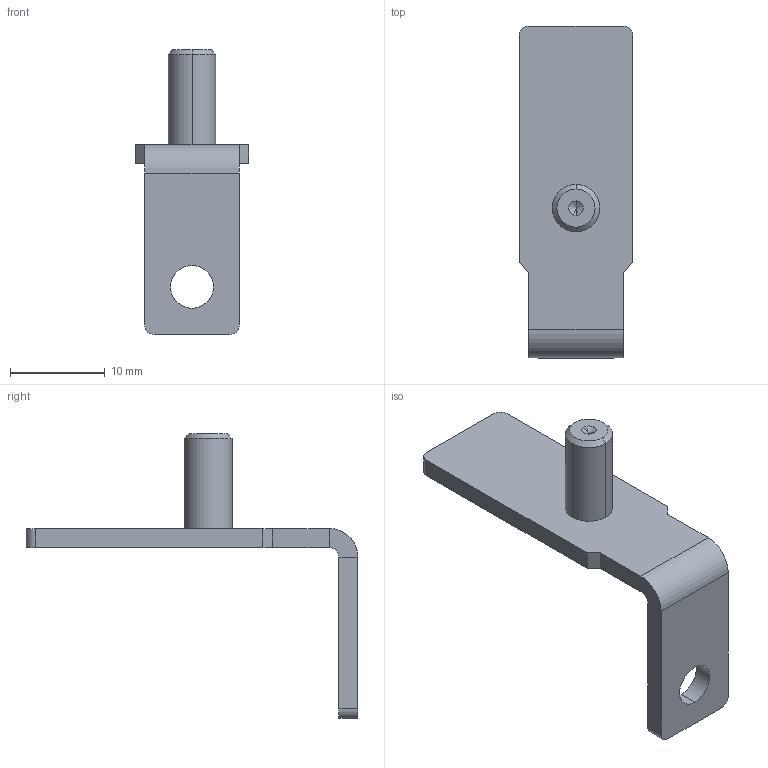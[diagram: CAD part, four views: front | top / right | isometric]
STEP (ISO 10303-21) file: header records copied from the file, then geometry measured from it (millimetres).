
FILE_DESCRIPTION((''),'2;1');
FILE_NAME('6531-0585_RR-EXT-DC-CBL-BUSBAR_ASM','2017-05-23T',('owenrh01'),(''),'PRO/ENGINEER BY PARAMETRIC TECHNOLOGY CORPORATION, 2011490','PRO/ENGINEER BY PARAMETRIC TECHNOLOGY CORPORATION, 2011490','');
FILE_SCHEMA(('AUTOMOTIVE_DESIGN { 1 0 10303 214 1 1 1 1 }'));
Length unit declared in the file: millimetre
Products named in the file (3): 6531-0585_RR-EXT-DC-CBL-BUSBAR; 20160926-110524-47951495; 6531-0585_RR-EXT-DC-CBL-BUSBAR_ASM
Assembly tree (2 placements, depth 2):
  6531-0585_RR-EXT-DC-CBL-BUSBAR_ASM
    6531-0585_RR-EXT-DC-CBL-BUSBAR
    20160926-110524-47951495
Bounding box: 12 x 34.95 x 30 mm (x, y, z)
Volume: 1312.8 mm3; surface area: 1633.5 mm2
Topology: 2 solids, 2 shells, 52 faces, 116 edges, 69 vertices
Faces by surface type: plane 20, cylinder 16, cone 8, torus 8
Entity records: 2406 total; most frequent: DIRECTION 284, CARTESIAN_POINT 247, ORIENTED_EDGE 228, PRESENTATION_STYLE_ASSIGNMENT 122, STYLED_ITEM 116, CURVE_STYLE 114, EDGE_CURVE 114, AXIS2_PLACEMENT_3D 113
